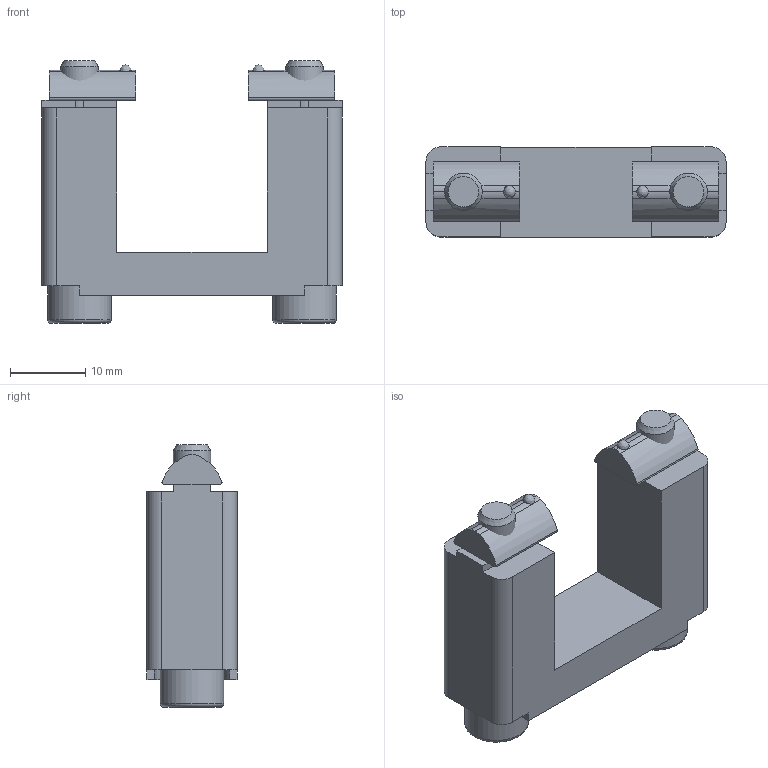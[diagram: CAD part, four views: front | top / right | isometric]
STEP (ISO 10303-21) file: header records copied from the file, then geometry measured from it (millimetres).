
FILE_DESCRIPTION(('STEP AP214'),'1');
FILE_NAME('CA.03.14.20.stp','2016-06-15T07:18:55',(' '),(' '),'Spatial InterOp 3D',' ',' ');
FILE_SCHEMA(('automotive_design'));
Length unit declared in the file: millimetre
Products named in the file (4): CA.02.05.003; 03-14-20; V-tcei M  5 x 30
Assembly tree (5 placements, depth 2):
  (unnamed)
    CA.02.05.003  x2
    03-14-20
    V-tcei M  5 x 30  x2
Bounding box: 40 x 12 x 35 mm (x, y, z)
Volume: 8304.7 mm3; surface area: 5907.6 mm2
Topology: 5 solids, 5 shells, 94 faces, 246 edges, 162 vertices
Faces by surface type: plane 56, cylinder 30, torus 4, bspline 2, cone 2
Full cylindrical faces by diameter (mm): 4.2 x2, 5 x4, 8.5 x2
Entity records: 2751 total; most frequent: CARTESIAN_POINT 472, DIRECTION 345, ORIENTED_EDGE 338, EDGE_CURVE 169, LINE 119, VECTOR 119, VERTEX_POINT 116, AXIS2_PLACEMENT_3D 113
